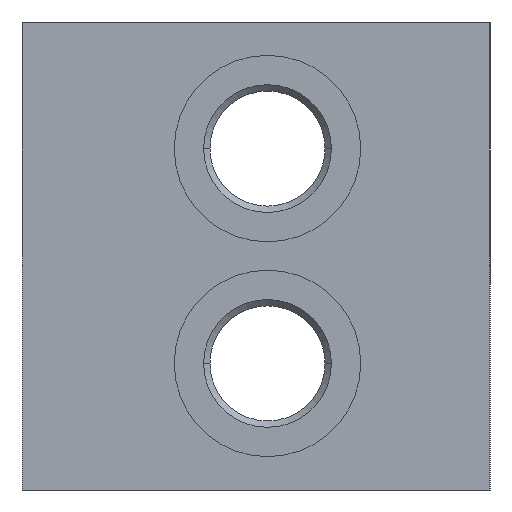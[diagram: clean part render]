
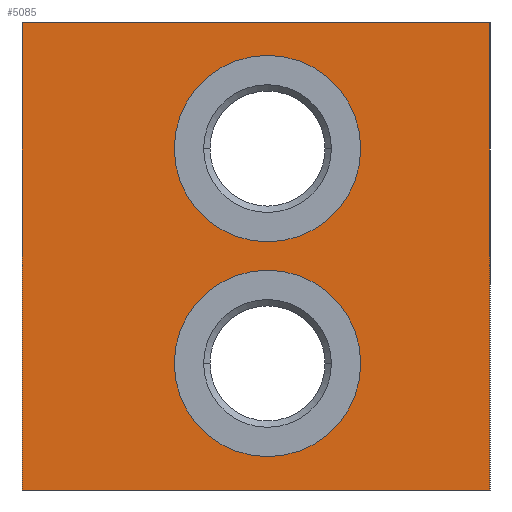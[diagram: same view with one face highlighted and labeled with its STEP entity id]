
A CAD part, left-side view. The second image highlights one B-rep face of the part: STEP entity #5085.
In plain terms, the highlighted planar face has unit normal (-1, 0, 0).
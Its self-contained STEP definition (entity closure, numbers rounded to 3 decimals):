
#25=DIRECTION('',(0.,-1.,0.));
#26=VECTOR('',#25,61.);
#27=CARTESIAN_POINT('',(0.,61.,0.));
#28=LINE('',#27,#26);
#137=DIRECTION('',(0.,0.,-1.));
#138=VECTOR('',#137,61.);
#139=CARTESIAN_POINT('',(0.,0.,0.));
#140=LINE('',#139,#138);
#1039=DIRECTION('',(0.,0.,-1.));
#1040=VECTOR('',#1039,61.);
#1041=CARTESIAN_POINT('',(0.,61.,0.));
#1042=LINE('',#1041,#1040);
#1043=CARTESIAN_POINT('',(0.,29.,-44.5));
#1044=DIRECTION('',(1.,0.,0.));
#1045=DIRECTION('',(0.,-1.,0.));
#1046=AXIS2_PLACEMENT_3D('',#1043,#1044,#1045);
#1048=CARTESIAN_POINT('',(0.,29.,-44.5));
#1049=DIRECTION('',(1.,0.,0.));
#1050=DIRECTION('',(0.,1.,0.));
#1051=AXIS2_PLACEMENT_3D('',#1048,#1049,#1050);
#1053=CARTESIAN_POINT('',(0.,29.,-16.5));
#1054=DIRECTION('',(1.,0.,0.));
#1055=DIRECTION('',(0.,-1.,0.));
#1056=AXIS2_PLACEMENT_3D('',#1053,#1054,#1055);
#1058=CARTESIAN_POINT('',(0.,29.,-16.5));
#1059=DIRECTION('',(1.,0.,0.));
#1060=DIRECTION('',(0.,1.,0.));
#1061=AXIS2_PLACEMENT_3D('',#1058,#1059,#1060);
#1075=DIRECTION('',(0.,-1.,0.));
#1076=VECTOR('',#1075,61.);
#1077=CARTESIAN_POINT('',(0.,61.,-61.));
#1078=LINE('',#1077,#1076);
#3930=CARTESIAN_POINT('',(0.,0.,0.));
#3932=VERTEX_POINT('',#3930);
#3936=CARTESIAN_POINT('',(0.,61.,0.));
#3937=VERTEX_POINT('',#3936);
#3938=CARTESIAN_POINT('',(0.,0.,-61.));
#3940=VERTEX_POINT('',#3938);
#3944=CARTESIAN_POINT('',(0.,61.,-61.));
#3945=VERTEX_POINT('',#3944);
#3958=CARTESIAN_POINT('',(0.,16.85,-44.5));
#3959=CARTESIAN_POINT('',(0.,41.15,-44.5));
#3960=VERTEX_POINT('',#3958);
#3961=VERTEX_POINT('',#3959);
#3974=CARTESIAN_POINT('',(0.,16.85,-16.5));
#3975=CARTESIAN_POINT('',(0.,41.15,-16.5));
#3976=VERTEX_POINT('',#3974);
#3977=VERTEX_POINT('',#3975);
#5061=CARTESIAN_POINT('',(0.,61.,0.));
#5062=DIRECTION('',(-1.,0.,0.));
#5063=DIRECTION('',(0.,-1.,0.));
#5064=AXIS2_PLACEMENT_3D('',#5061,#5062,#5063);
#5065=PLANE('',#5064);
#5066=ORIENTED_EDGE('',*,*,#4673,.T.);
#5067=ORIENTED_EDGE('',*,*,#4752,.T.);
#5069=ORIENTED_EDGE('',*,*,#5068,.F.);
#5070=ORIENTED_EDGE('',*,*,#4801,.F.);
#5071=EDGE_LOOP('',(#5066,#5067,#5069,#5070));
#5072=FACE_OUTER_BOUND('',#5071,.F.);
#5074=ORIENTED_EDGE('',*,*,#5073,.F.);
#5076=ORIENTED_EDGE('',*,*,#5075,.F.);
#5077=EDGE_LOOP('',(#5074,#5076));
#5078=FACE_BOUND('',#5077,.F.);
#5080=ORIENTED_EDGE('',*,*,#5079,.F.);
#5082=ORIENTED_EDGE('',*,*,#5081,.F.);
#5083=EDGE_LOOP('',(#5080,#5082));
#5084=FACE_BOUND('',#5083,.F.);
#1047=CIRCLE('',#1046,12.15);
#1052=CIRCLE('',#1051,12.15);
#1057=CIRCLE('',#1056,12.15);
#1062=CIRCLE('',#1061,12.15);
#4673=EDGE_CURVE('',#3937,#3932,#28,.T.);
#4752=EDGE_CURVE('',#3932,#3940,#140,.T.);
#4801=EDGE_CURVE('',#3937,#3945,#1042,.T.);
#5068=EDGE_CURVE('',#3945,#3940,#1078,.T.);
#5073=EDGE_CURVE('',#3960,#3961,#1047,.T.);
#5075=EDGE_CURVE('',#3961,#3960,#1052,.T.);
#5079=EDGE_CURVE('',#3976,#3977,#1057,.T.);
#5081=EDGE_CURVE('',#3977,#3976,#1062,.T.);
#5085=ADVANCED_FACE('',(#5072,#5078,#5084),#5065,.T.);
